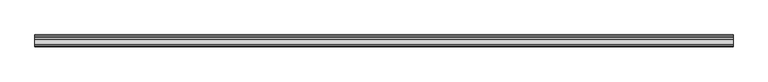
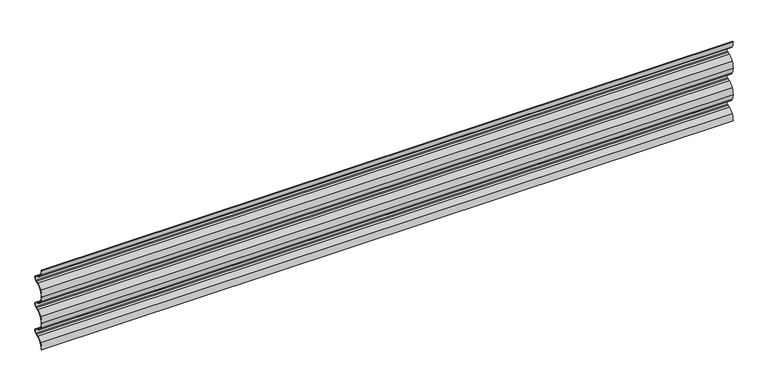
"""IFC4 building model written with IfcOpenShell, lengths in millimetres: plate geometry, Regolare Horizontal 267 : Regolare Horizontal 267."""

from ifc_helpers import new_model, si_unit, point, frame, frame_2d, origin, place, context, project, spatial, polyline, circle_curve, trimmed, segment, composite_curve, outline, extrude, source, transform, mapped, element, save


def plate_2d8520f8(model_context):
    return source(origin(), model_context, "Body", "SweptSolid", [
        extrude(outline(composite_curve([segment(trimmed(circle_curve(frame_2d((32.6206681, 263.588822)), 30.6166783), [point((6.5021495, 247.6137171))], [point((21.2504634, 235.1617322))], True, "CARTESIAN"), True, "CONTINUOUS"), segment(polyline([(21.2504634, 235.1617322), (28.4448583, 232.2801463), (31.9093405, 230.6195215)]), True, "CONTINUOUS"), segment(trimmed(circle_curve(frame_2d((28.0791236, 222.6287227)), 8.8613445), [point((31.9093405, 230.6195215))], [point((31.9093405, 214.6379239))], False, "CARTESIAN"), True, "CONTINUOUS"), segment(polyline([(31.9093405, 214.6379239), (28.4448583, 212.9772992), (21.2504634, 210.0957133)]), True, "CONTINUOUS"), segment(trimmed(circle_curve(frame_2d((32.6206681, 181.6686234)), 30.6166783), [point((21.2504634, 210.0957133))], [point((6.5021495, 197.6437283))], True, "CARTESIAN"), True, "CONTINUOUS"), segment(trimmed(circle_curve(frame_2d((38.4503244, 178.1029782)), 37.4503244), [point((6.5021495, 197.6437283))], [point((1.0, 178.1029782))], True, "CARTESIAN"), True, "CONTINUOUS"), segment(trimmed(circle_curve(frame_2d((38.4503244, 178.1029782)), 37.4503244), [point((1.0, 178.1029782))], [point((6.5021495, 158.562228))], True, "CARTESIAN"), True, "CONTINUOUS"), segment(trimmed(circle_curve(frame_2d((32.6206681, 174.5373329)), 30.6166783), [point((6.5021495, 158.562228))], [point((21.2504634, 146.1102431))], True, "CARTESIAN"), True, "CONTINUOUS"), segment(polyline([(21.2504634, 146.1102431), (28.4448583, 143.2286572), (31.9093405, 141.5680324)]), True, "CONTINUOUS"), segment(trimmed(circle_curve(frame_2d((28.0791236, 133.5772336)), 8.8613445), [point((31.9093405, 141.5680324))], [point((31.9093405, 125.5864348))], False, "CARTESIAN"), True, "CONTINUOUS"), segment(polyline([(31.9093405, 125.5864348), (28.4448583, 123.9258101), (21.2504634, 121.0442242)]), True, "CONTINUOUS"), segment(trimmed(circle_curve(frame_2d((32.6206681, 92.6171343)), 30.6166783), [point((21.2504634, 121.0442242))], [point((6.5021495, 108.5922392))], True, "CARTESIAN"), True, "CONTINUOUS"), segment(trimmed(circle_curve(frame_2d((38.4503244, 89.0514891)), 37.4503244), [point((6.5021495, 108.5922392))], [point((1.0, 89.0514891))], True, "CARTESIAN"), True, "CONTINUOUS"), segment(trimmed(circle_curve(frame_2d((38.4503244, 89.0514891)), 37.4503244), [point((1.0, 89.0514891))], [point((6.5021495, 69.5107389))], True, "CARTESIAN"), True, "CONTINUOUS"), segment(trimmed(circle_curve(frame_2d((32.6206681, 85.4858438)), 30.6166783), [point((6.5021495, 69.5107389))], [point((21.2504634, 57.058754))], True, "CARTESIAN"), True, "CONTINUOUS"), segment(polyline([(21.2504634, 57.058754), (28.4448583, 54.1771681), (31.9093405, 52.5165434)]), True, "CONTINUOUS"), segment(trimmed(circle_curve(frame_2d((28.0791236, 44.5257445)), 8.8613445), [point((31.9093405, 52.5165434))], [point((31.9093405, 36.5349457))], False, "CARTESIAN"), True, "CONTINUOUS"), segment(polyline([(31.9093405, 36.5349457), (28.4448583, 34.874321), (21.2504634, 31.9927351)]), True, "CONTINUOUS"), segment(trimmed(circle_curve(frame_2d((32.6206681, 3.5656452)), 30.6166783), [point((21.2504634, 31.9927351))], [point((6.5021495, 19.5407501))], True, "CARTESIAN"), True, "CONTINUOUS"), segment(trimmed(circle_curve(frame_2d((38.4503244, 0.0)), 37.4503244), [point((6.5021495, 19.5407501))], [point((1.0, 0.0))], True, "CARTESIAN"), True, "CONTINUOUS"), segment(polyline([(1.0, 0.0), (0.0, 0.0)]), True, "CONTINUOUS"), segment(trimmed(circle_curve(frame_2d((38.4503244, 0.0)), 38.4503244), [point((0.0, 0.0))], [point((5.6490681, 20.062528))], False, "CARTESIAN"), True, "CONTINUOUS"), segment(trimmed(circle_curve(frame_2d((32.6206681, 3.5656452)), 31.6166783), [point((5.6490681, 20.062528))], [point((20.878867, 32.9211295))], False, "CARTESIAN"), True, "CONTINUOUS"), segment(polyline([(20.878867, 32.9211295), (28.0423924, 35.7903512), (31.4771017, 37.4367049)]), True, "CONTINUOUS"), segment(trimmed(circle_curve(frame_2d((28.0791236, 44.5257445)), 7.8613445), [point((31.4771017, 37.4367049))], [point((31.4771017, 51.6147842))], True, "CARTESIAN"), True, "CONTINUOUS"), segment(polyline([(31.4771017, 51.6147842), (28.0423924, 53.2611379), (20.878867, 56.1303596)]), True, "CONTINUOUS"), segment(trimmed(circle_curve(frame_2d((32.6206681, 85.4858438)), 31.6166783), [point((20.878867, 56.1303596))], [point((5.6490681, 68.9889611))], False, "CARTESIAN"), True, "CONTINUOUS"), segment(trimmed(circle_curve(frame_2d((38.4503244, 89.0514891)), 38.4503244), [point((5.6490681, 68.9889611))], [point((0.0, 89.0514891))], False, "CARTESIAN"), True, "CONTINUOUS"), segment(trimmed(circle_curve(frame_2d((38.4503244, 89.0514891)), 38.4503244), [point((0.0, 89.0514891))], [point((5.6490681, 109.1140171))], False, "CARTESIAN"), True, "CONTINUOUS"), segment(trimmed(circle_curve(frame_2d((32.6206681, 92.6171343)), 31.6166783), [point((5.6490681, 109.1140171))], [point((20.878867, 121.9726185))], False, "CARTESIAN"), True, "CONTINUOUS"), segment(polyline([(20.878867, 121.9726185), (28.0423924, 124.8418403), (31.4771017, 126.488194)]), True, "CONTINUOUS"), segment(trimmed(circle_curve(frame_2d((28.0791236, 133.5772336)), 7.8613445), [point((31.4771017, 126.488194))], [point((31.4771017, 140.6662733))], True, "CARTESIAN"), True, "CONTINUOUS"), segment(polyline([(31.4771017, 140.6662733), (28.0423924, 142.312627), (20.878867, 145.1818487)]), True, "CONTINUOUS"), segment(trimmed(circle_curve(frame_2d((32.6206681, 174.5373329)), 31.6166783), [point((20.878867, 145.1818487))], [point((5.6490681, 158.0404502))], False, "CARTESIAN"), True, "CONTINUOUS"), segment(trimmed(circle_curve(frame_2d((38.4503244, 178.1029782)), 38.4503244), [point((5.6490681, 158.0404502))], [point((0.0, 178.1029782))], False, "CARTESIAN"), True, "CONTINUOUS"), segment(trimmed(circle_curve(frame_2d((38.4503244, 178.1029782)), 38.4503244), [point((0.0, 178.1029782))], [point((5.6490681, 198.1655062))], False, "CARTESIAN"), True, "CONTINUOUS"), segment(trimmed(circle_curve(frame_2d((32.6206681, 181.6686234)), 31.6166783), [point((5.6490681, 198.1655062))], [point((20.878867, 211.0241076))], False, "CARTESIAN"), True, "CONTINUOUS"), segment(polyline([(20.878867, 211.0241076), (28.0423924, 213.8933293), (31.4771017, 215.5396831)]), True, "CONTINUOUS"), segment(trimmed(circle_curve(frame_2d((28.0791236, 222.6287227)), 7.8613445), [point((31.4771017, 215.5396831))], [point((31.4771017, 229.7177623))], True, "CARTESIAN"), True, "CONTINUOUS"), segment(polyline([(31.4771017, 229.7177623), (28.0423924, 231.3641161), (20.878867, 234.2333378)]), True, "CONTINUOUS"), segment(trimmed(circle_curve(frame_2d((32.6206681, 263.588822)), 31.6166783), [point((20.878867, 234.2333378))], [point((5.6490681, 247.0919392))], False, "CARTESIAN"), True, "CONTINUOUS"), segment(trimmed(circle_curve(frame_2d((38.4503244, 267.1544672)), 38.4503244), [point((5.6490681, 247.0919392))], [point((0.0, 267.1544672))], False, "CARTESIAN"), True, "CONTINUOUS"), segment(polyline([(0.0, 267.1544672), (1.0, 267.1544672)]), True, "CONTINUOUS"), segment(trimmed(circle_curve(frame_2d((38.4503244, 267.1544672)), 37.4503244), [point((1.0, 267.1544672))], [point((6.5021495, 247.6137171))], True, "CARTESIAN"), True, "CONTINUOUS")], self_intersect=False)), frame((-1100.1688045, 0.0, 0.0), z_axis=(1.0, 0.0, 0.0), x_axis=(0.0, 1.0, 0.0)), (0.0, 0.0, 1.0), 2200.3376091),
    ])


if __name__ == "__main__":
    model = new_model("IFC4")
    model_context = context("Model", 3, world=origin())
    ifc_project = project(units=[si_unit("LENGTHUNIT", "METRE", prefix="MILLI")], contexts=[model_context])
    site = spatial("IfcSite", under=ifc_project)
    building = spatial("IfcBuilding", under=site)
    placement = place(None, origin())
    plate_shape = plate_2d8520f8(model_context)
    element("IfcPlate", 1, ObjectType="Regolare Horizontal 267 : Regolare Horizontal 267", at=placement, inside=building, context=model_context, shape_type="MappedRepresentation", body=[
        mapped(plate_shape, transform((0.0, 0.0, 0.0), x_axis=(1.0, 0.0, 0.0), y_axis=(0.0, 1.0, 0.0), z_axis=(0.0, 0.0, 1.0))),
    ])
    save(model, "model.ifc")
